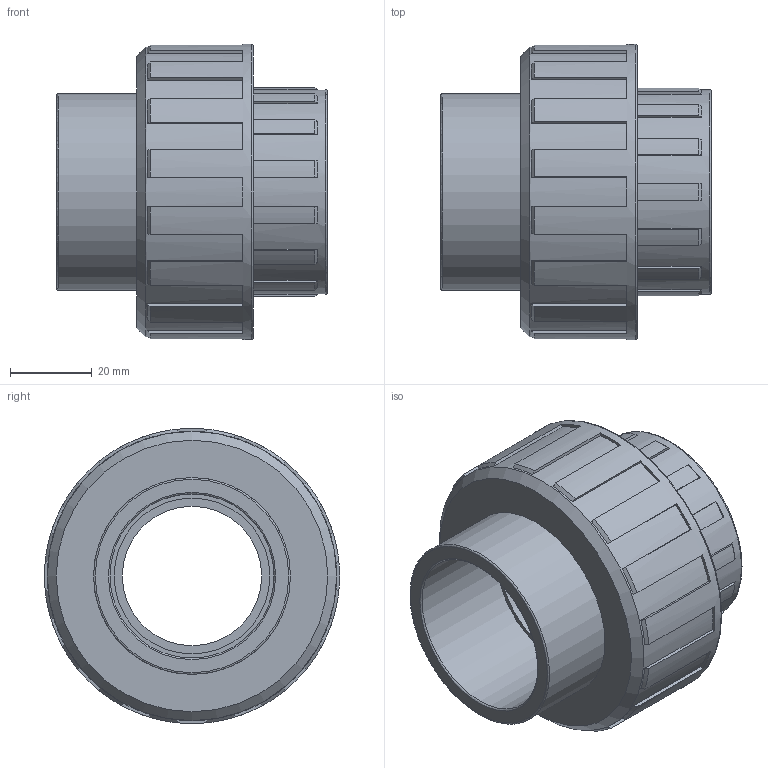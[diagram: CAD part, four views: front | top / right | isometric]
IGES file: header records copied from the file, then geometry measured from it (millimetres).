
Global section: file name: 050802040013.ipt; native system: Autodesk Inventor 2015; preprocessor: unknown; author: KIM; date: 20171207.164950; units: millimetre
Bounding box: 66 x 72 x 72 mm (x, y, z)
Volume: 108149.6 mm3; surface area: 26727.9 mm2
Topology: 1 solids, 1 shells, 141 faces, 414 edges, 280 vertices
Faces by surface type: plane 83, cone 31, cylinder 18, revolution 9
Full cylindrical faces by diameter (mm): 48 x1, 50 x1, 70.56 x1, 72 x1
